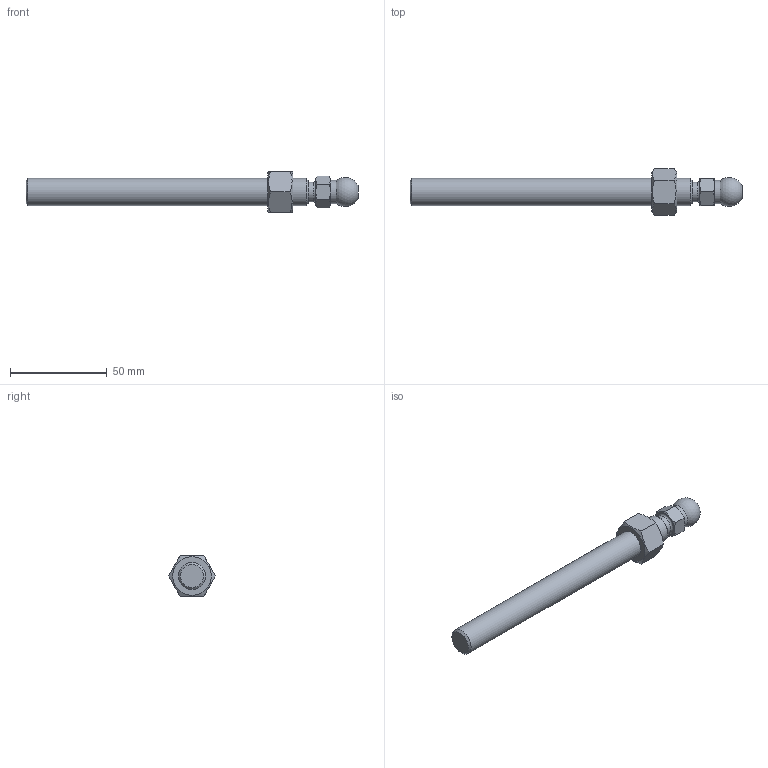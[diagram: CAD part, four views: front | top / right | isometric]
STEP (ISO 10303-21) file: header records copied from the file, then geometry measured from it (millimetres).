
FILE_DESCRIPTION(('STEP AP203'), '1');
FILE_NAME('A00020.114150', '', ('UNSPECIFIED'), ('UNSPECIFIED'), 'C3D Converter', 'C3D Toolkit', '');
FILE_SCHEMA(('CONFIG_CONTROL_DESIGN'));
Length unit declared in the file: millimetre
Products named in the file (2): A00020.114150
Assembly tree (1 placements, depth 2):
  A00020.114150
    (unnamed)
Bounding box: 171.8 x 24.25 x 21 mm (x, y, z)
Volume: 29327.9 mm3; surface area: 9715.2 mm2
Topology: 2 solids, 2 shells, 43 faces, 88 edges, 52 vertices
Faces by surface type: plane 19, cone 18, cylinder 4, torus 1, sphere 1
Full cylindrical faces by diameter (mm): 10.2 x1, 11.835 x1, 12 x1, 14 x1
Entity records: 2211 total; most frequent: CARTESIAN_POINT 1309, DIRECTION 158, ORIENTED_EDGE 152, EDGE_CURVE 76, AXIS2_PLACEMENT_3D 73, EDGE_LOOP 60, VERTEX_POINT 52, ADVANCED_FACE 43
